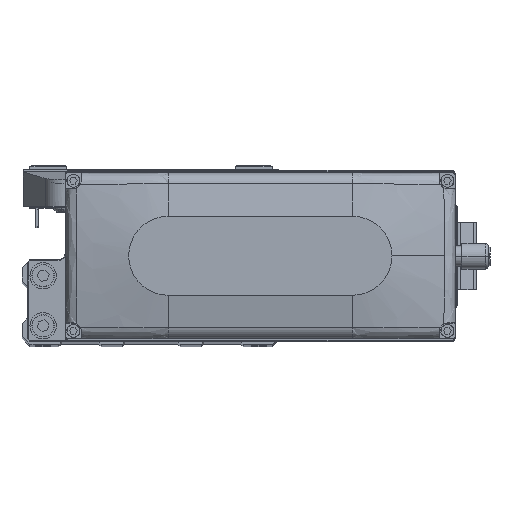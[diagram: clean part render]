
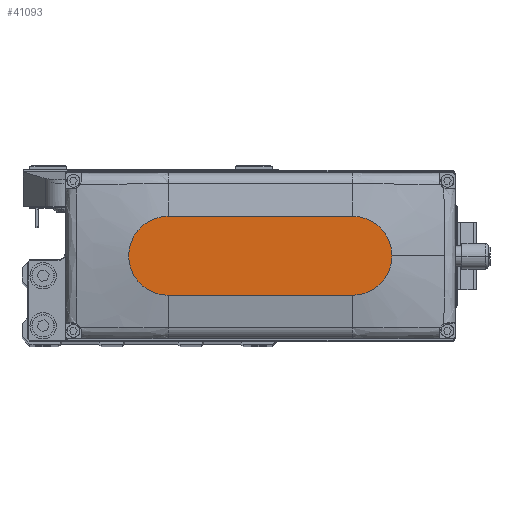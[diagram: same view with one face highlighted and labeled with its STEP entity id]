
A CAD part, top view. The second image highlights one B-rep face of the part: STEP entity #41093.
In plain terms, the highlighted planar face has unit normal (0, 0, 1).
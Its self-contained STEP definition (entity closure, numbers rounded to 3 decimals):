
#1020 = CARTESIAN_POINT ( 'NONE',  ( 0., 0., 35. ) ) ;
#1574 = CARTESIAN_POINT ( 'NONE',  ( 35., 0., 35. ) ) ;
#2480 = CARTESIAN_POINT ( 'NONE',  ( -35., 15., 35. ) ) ;
#2562 = CARTESIAN_POINT ( 'NONE',  ( 35., 0., 35. ) ) ;
#2621 = VERTEX_POINT ( 'NONE', #13163 ) ;
#3586 = EDGE_CURVE ( 'NONE', #16418, #16455, #33609, .T. ) ;
#7455 = CARTESIAN_POINT ( 'NONE',  ( -35., 15., 35. ) ) ;
#8389 = DIRECTION ( 'NONE',  ( 1., 0., 0. ) ) ;
#9341 = ORIENTED_EDGE ( 'NONE', *, *, #15837, .T. ) ;
#9605 = ORIENTED_EDGE ( 'NONE', *, *, #3586, .T. ) ;
#10778 = CIRCLE ( 'NONE', #16592, 15. ) ;
#11548 = DIRECTION ( 'NONE',  ( 1., 0., 0. ) ) ;
#12012 = VERTEX_POINT ( 'NONE', #33025 ) ;
#12358 = EDGE_CURVE ( 'NONE', #16455, #12012, #10778, .T. ) ;
#13163 = CARTESIAN_POINT ( 'NONE',  ( 50., 0., 35. ) ) ;
#13488 = ORIENTED_EDGE ( 'NONE', *, *, #43308, .T. ) ;
#14831 = DIRECTION ( 'NONE',  ( 0., 0., 1. ) ) ;
#15390 = DIRECTION ( 'NONE',  ( 0., 0., 1. ) ) ;
#15397 = AXIS2_PLACEMENT_3D ( 'NONE', #1020, #14831, #28713 ) ;
#15637 = ORIENTED_EDGE ( 'NONE', *, *, #12358, .T. ) ;
#15769 = AXIS2_PLACEMENT_3D ( 'NONE', #1574, #15390, #29275 ) ;
#15837 = EDGE_CURVE ( 'NONE', #22046, #2621, #36876, .T. ) ;
#16299 = DIRECTION ( 'NONE',  ( -1., 0., 0. ) ) ;
#16375 = DIRECTION ( 'NONE',  ( 0., 0., 1. ) ) ;
#16418 = VERTEX_POINT ( 'NONE', #41775 ) ;
#16455 = VERTEX_POINT ( 'NONE', #7455 ) ;
#16592 = AXIS2_PLACEMENT_3D ( 'NONE', #25653, #39536, #8389 ) ;
#17230 = AXIS2_PLACEMENT_3D ( 'NONE', #2562, #16375, #30265 ) ;
#18253 = FACE_OUTER_BOUND ( 'NONE', #37429, .T. ) ;
#18818 = CARTESIAN_POINT ( 'NONE',  ( 35., -15., 35. ) ) ;
#22046 = VERTEX_POINT ( 'NONE', #18818 ) ;
#25653 = CARTESIAN_POINT ( 'NONE',  ( -35., 0., 35. ) ) ;
#28713 = DIRECTION ( 'NONE',  ( 1., 0., 0. ) ) ;
#28834 = LINE ( 'NONE', #42704, #42766 ) ;
#29275 = DIRECTION ( 'NONE',  ( 1., 0., 0. ) ) ;
#30265 = DIRECTION ( 'NONE',  ( 1., 0., 0. ) ) ;
#32146 = PLANE ( 'NONE',  #15397 ) ;
#33025 = CARTESIAN_POINT ( 'NONE',  ( -35., -15., 35. ) ) ;
#33071 = ORIENTED_EDGE ( 'NONE', *, *, #39289, .T. ) ;
#33609 = LINE ( 'NONE', #2480, #35108 ) ;
#35108 = VECTOR ( 'NONE', #16299, 1000. ) ;
#35354 = CIRCLE ( 'NONE', #15769, 15. ) ;
#36876 = CIRCLE ( 'NONE', #17230, 15. ) ;
#37429 = EDGE_LOOP ( 'NONE', ( #9605, #15637, #13488, #9341, #33071 ) ) ;
#39289 = EDGE_CURVE ( 'NONE', #2621, #16418, #35354, .T. ) ;
#39536 = DIRECTION ( 'NONE',  ( 0., 0., 1. ) ) ;
#41093 = ADVANCED_FACE ( 'NONE', ( #18253 ), #32146, .T. ) ;
#41775 = CARTESIAN_POINT ( 'NONE',  ( 35., 15., 35. ) ) ;
#42704 = CARTESIAN_POINT ( 'NONE',  ( -35., -15., 35. ) ) ;
#42766 = VECTOR ( 'NONE', #11548, 1000. ) ;
#43308 = EDGE_CURVE ( 'NONE', #12012, #22046, #28834, .T. ) ;
